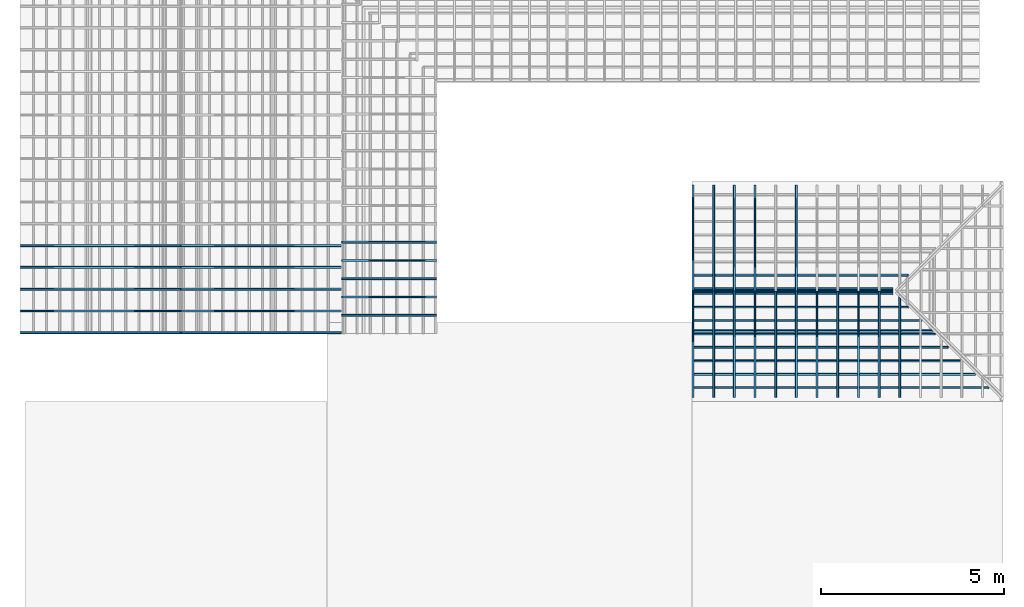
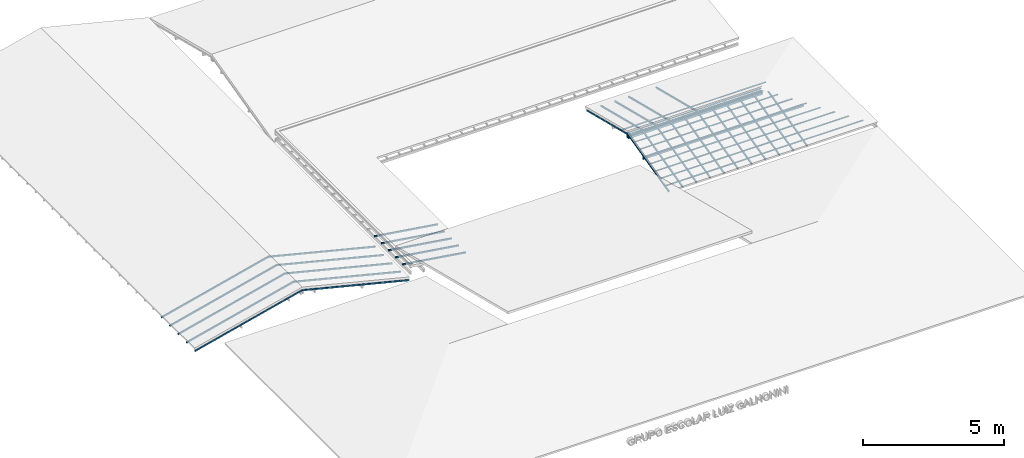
# One storey, part 1 of 10: 44 members, 5 elements without a shape of their own.
"""IFC2X3 building model written with IfcOpenShell, lengths in metres."""

import ifcopenshell
import ifcopenshell.guid

model = None  # the IFC model being written
_history = None  # IfcOwnerHistory: only IFC2X3 demands one
_inside = {}  # id of a spatial element -> (the spatial element, [elements in it])
_under = {}  # id of a project, library or spatial element -> (it, [spatial elements below it])
_declared = {}  # id of a project -> (the project, [libraries it declares])
_typed = {}  # id of a type object -> (the type object, [elements of that type])
_made_of = {}  # id of a material, layer set ... -> (it, [elements and type objects made of it])


def new_model(schema):
    """Start an empty IFC model of exactly this schema.

    Asked for "IFC4X3", IfcOpenShell would pick the latest addendum, in which some entities
    have other attributes; the version numbers below select the first issue.
    IFC2X3 requires an IfcOwnerHistory on every rooted entity: one is made here for all.
    """
    global model, _history
    if schema == "IFC4X3":
        model = ifcopenshell.file(schema_version=(4, 3, 0, 0))
    else:
        model = ifcopenshell.file(schema=schema)
    _inside.clear()
    _under.clear()
    _declared.clear()
    _typed.clear()
    _made_of.clear()
    _history = None
    if model.schema == "IFC2X3":
        org = make("IfcOrganization", Name="unknown")
        user = make(
            "IfcPersonAndOrganization",
            ThePerson=make("IfcPerson", FamilyName="unknown"),
            TheOrganization=org,
        )
        app = make(
            "IfcApplication",
            ApplicationDeveloper=org,
            Version="unknown",
            ApplicationFullName="unknown",
            ApplicationIdentifier="unknown",
        )
        _history = make(
            "IfcOwnerHistory",
            OwningUser=user,
            OwningApplication=app,
            ChangeAction="ADDED",
            CreationDate=0,
        )
    return model


def make(cls, **values):
    """One entity of the class cls with the attributes given. An attribute that is None is left unset."""
    return model.create_entity(
        cls, **{name: value for name, value in values.items() if value is not None}
    )


def entity(cls, *values):
    """Any entity or typed value of the class cls, its attributes in the order of the schema. None: left unset."""
    e = model.create_entity(cls)
    for i, value in enumerate(values):
        if value is not None:
            e[i] = value
    return e


def rooted(cls, **values):
    """An entity with a GlobalId (a new one), such as an element, a storey or a relation."""
    return make(cls, GlobalId=ifcopenshell.guid.new(), OwnerHistory=_history, **values)


def si_unit(unit_type, name, prefix=None):
    """IfcSIUnit, for example si_unit("LENGTHUNIT", "METRE", prefix="MILLI")."""
    return make("IfcSIUnit", UnitType=unit_type, Prefix=prefix, Name=name)


def converted_unit(unit_type, name, factor, base, dimensions=None, offset=None):
    """IfcConversionBasedUnit, such as the inch: factor (a typed value) times the base unit."""
    return make(
        "IfcConversionBasedUnit"
        if offset is None
        else "IfcConversionBasedUnitWithOffset",
        ConversionOffset=offset,
        Dimensions=None
        if dimensions is None
        else entity("IfcDimensionalExponents", *dimensions),
        UnitType=unit_type,
        Name=name,
        ConversionFactor=make(
            "IfcMeasureWithUnit", ValueComponent=factor, UnitComponent=base
        ),
    )


def derived_unit(unit_type, elements):
    """IfcDerivedUnit: a product of units, each with its exponent."""
    return make(
        "IfcDerivedUnit",
        Elements=[
            make("IfcDerivedUnitElement", Unit=unit, Exponent=power)
            for unit, power in elements
        ],
        UnitType=unit_type,
    )


def assignment(units):
    """IfcUnitAssignment: the units of a project."""
    return None if units is None else make("IfcUnitAssignment", Units=units)


def point(xyz):
    """IfcCartesianPoint."""
    return None if xyz is None else make("IfcCartesianPoint", Coordinates=xyz)


def direction(xyz):
    """IfcDirection."""
    return None if xyz is None else make("IfcDirection", DirectionRatios=xyz)


def frame(location, z_axis=None, x_axis=None):
    """IfcAxis2Placement3D, a coordinate frame: its origin and axes. An axis left out is left unset."""
    return make(
        "IfcAxis2Placement3D",
        Location=point(location),
        Axis=direction(z_axis),
        RefDirection=direction(x_axis),
    )


def frame_2d(location, x_axis=None):
    """IfcAxis2Placement2D, a coordinate frame in the plane: its origin and x axis."""
    return make(
        "IfcAxis2Placement2D", Location=point(location), RefDirection=direction(x_axis)
    )


def origin():
    """The frame at (0, 0, 0) with its axes left unset."""
    return frame((0.0, 0.0, 0.0))


def origin_2d_with_axis():
    """The frame at (0, 0) in the plane with the x axis (1, 0) written out."""
    return frame_2d((0.0, 0.0), x_axis=(1.0, 0.0))


def place(relative_to, where):
    """IfcLocalPlacement: puts the frame where relative to a parent placement (None: the world)."""
    return make(
        "IfcLocalPlacement", PlacementRelTo=relative_to, RelativePlacement=where
    )


def context(
    kind, dimensions, precision=None, world=None, true_north=None, identifier=None
):
    """IfcGeometricRepresentationContext, for example the 3D "Model" context."""
    return make(
        "IfcGeometricRepresentationContext",
        ContextIdentifier=identifier,
        ContextType=kind,
        CoordinateSpaceDimension=dimensions,
        Precision=precision,
        WorldCoordinateSystem=world,
        TrueNorth=true_north,
    )


def subcontext(parent, identifier, kind, view, scale=None):
    """IfcGeometricRepresentationSubContext, for example "Body" below "Model"."""
    return make(
        "IfcGeometricRepresentationSubContext",
        ContextIdentifier=identifier,
        ContextType=kind,
        ParentContext=parent,
        TargetScale=scale,
        TargetView=view,
    )


def project(units=None, contexts=None):
    """IfcProject with its units and contexts."""
    return rooted(
        "IfcProject",
        Name="project",
        RepresentationContexts=contexts,
        UnitsInContext=assignment(units),
    )


def spatial(cls, under=None, at=None, **own):
    """A site, building, storey or space (cls), placed at a placement, below another one or the project."""
    s = rooted(cls, ObjectPlacement=at, **own)
    if under is not None:
        _under.setdefault(under.id(), (under, []))[1].append(s)
    return s


def profile(cls, at=None, kind="AREA", **sizes):
    """A parametric profile (cls). Its sizes go by their IFC names, for example OverallWidth=200.0."""
    return make(cls, ProfileType=kind, Position=at, **sizes)


def rectangle(**sizes):
    """IfcRectangleProfileDef."""
    return profile("IfcRectangleProfileDef", **sizes)


def extrude(swept, where, along, depth):
    """IfcExtrudedAreaSolid: the profile swept, set in the frame where, extruded along a direction by depth."""
    return make(
        "IfcExtrudedAreaSolid",
        SweptArea=swept,
        Position=where,
        ExtrudedDirection=direction(along),
        Depth=depth,
    )


def clip(a, b, op="DIFFERENCE"):
    """IfcBooleanClippingResult: the solid a cut by the half space b."""
    return make(
        "IfcBooleanClippingResult", Operator=op, FirstOperand=a, SecondOperand=b
    )


def halfspace(plane, agree):
    """IfcHalfSpaceSolid: all space on one side of the plane z = 0 of the frame plane."""
    return make(
        "IfcHalfSpaceSolid",
        BaseSurface=make("IfcPlane", Position=plane),
        AgreementFlag=agree,
    )


def shape(context_of_items, identifier, shape_type, items):
    """IfcShapeRepresentation: the items that make up one representation, for example the "Body"."""
    return make(
        "IfcShapeRepresentation",
        ContextOfItems=context_of_items,
        RepresentationIdentifier=identifier,
        RepresentationType=shape_type,
        Items=items,
    )


def source(mapping_origin, context_of_items, identifier, shape_type, items):
    """IfcRepresentationMap: a shape defined once, which mapped items show again and again."""
    return make(
        "IfcRepresentationMap",
        MappingOrigin=mapping_origin,
        MappedRepresentation=shape(context_of_items, identifier, shape_type, items),
    )


def transform(
    local_origin,
    x_axis=None,
    y_axis=None,
    z_axis=None,
    scale=None,
    scale2=None,
    scale3=None,
    uniform=True,
):
    """IfcCartesianTransformationOperator3D, or its non-uniform kind. x_axis, y_axis, z_axis: its Axis1, 2, 3."""
    if uniform:
        return make(
            "IfcCartesianTransformationOperator3D",
            Axis1=direction(x_axis),
            Axis2=direction(y_axis),
            LocalOrigin=point(local_origin),
            Scale=scale,
            Axis3=direction(z_axis),
        )
    return make(
        "IfcCartesianTransformationOperator3DnonUniform",
        Axis1=direction(x_axis),
        Axis2=direction(y_axis),
        LocalOrigin=point(local_origin),
        Scale=scale,
        Axis3=direction(z_axis),
        Scale2=scale2,
        Scale3=scale3,
    )


def mapped(mapping_source, mapping_target):
    """IfcMappedItem: shows the shape of a source again, moved by a transform."""
    return make(
        "IfcMappedItem", MappingSource=mapping_source, MappingTarget=mapping_target
    )


def material(Name=None, Category=None):
    """IfcMaterial."""
    return make("IfcMaterial", Name=Name, Category=Category)


def made_of(thing, what):
    """Note that an element or type object is made of a material, layer set ...; save() writes the relation."""
    if what is not None:
        _made_of.setdefault(what.id(), (what, []))[1].append(thing)
    return thing


def type_object(cls, material=None, **own):
    """A type object (cls), such as IfcWallType, which elements share."""
    return made_of(rooted(cls, **own), material)


def type_shapes(of_type, sources):
    """Give a type object the sources (RepresentationMaps) that its elements show as mapped items."""
    of_type.RepresentationMaps = sources


def element(
    cls,
    number,
    at=None,
    inside=None,
    cuts=None,
    type_object=None,
    material=None,
    context=None,
    identifier="Body",
    shape_type=None,
    held_by="IfcProductDefinitionShape",
    body=None,
    shapes=None,
    **own,
):
    """One element of the class cls, such as IfcWall. Its Tag is "e" and its number.

    at: its placement. inside: the storey or other place that contains it. cuts: it is an
    opening in that element (IfcRelVoidsElement). A single representation is given by context,
    identifier, shape_type and body (its items); several are given by shapes. held_by: the class
    of the entity that holds the representations. save() writes the other relations.
    """
    e = rooted(cls, Tag="e%d" % number, ObjectPlacement=at, **own)
    if body is not None:
        shapes = [shape(context, identifier, shape_type, body)]
    if shapes is not None:
        e.Representation = make(held_by, Representations=shapes)
    if inside is not None:
        _inside.setdefault(inside.id(), (inside, []))[1].append(e)
    if cuts is not None:
        rooted(
            "IfcRelVoidsElement", RelatingBuildingElement=cuts, RelatedOpeningElement=e
        )
    if type_object is not None:
        _typed.setdefault(type_object.id(), (type_object, []))[1].append(e)
    return made_of(e, material)


def aggregate(whole, parts):
    """IfcRelAggregates: a whole, such as a stair, and the parts it consists of."""
    return rooted("IfcRelAggregates", RelatingObject=whole, RelatedObjects=parts)


def save(model, path):
    """Write the relations noted so far, then the file.

    IfcRelAggregates (storeys below a building ...), IfcRelContainedInSpatialStructure (elements
    in a storey), IfcRelDefinesByType, IfcRelAssociatesMaterial and IfcRelDeclares: one each for
    every whole, place, type object, material and project.
    """
    for whole, parts in _under.values():
        aggregate(whole, parts)
    for where, things in _inside.values():
        rooted(
            "IfcRelContainedInSpatialStructure",
            RelatedElements=things,
            RelatingStructure=where,
        )
    for kind, things in _typed.values():
        rooted("IfcRelDefinesByType", RelatedObjects=things, RelatingType=kind)
    for what, things in _made_of.values():
        rooted("IfcRelAssociatesMaterial", RelatedObjects=things, RelatingMaterial=what)
    for by, libraries in _declared.values():
        rooted("IfcRelDeclares", RelatingContext=by, RelatedDefinitions=libraries)
    model.write(path)


model = new_model("IFC2X3")

# Units and contexts
model_context = context("Model", 3, precision=1e-05, world=origin(), true_north=direction((6.12303176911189e-17, 1.0)))
body_context = subcontext(model_context, "Body", "Model", "MODEL_VIEW")
ifc_project = project(units=[si_unit("LENGTHUNIT", "METRE"), si_unit("AREAUNIT", "SQUARE_METRE"), si_unit("VOLUMEUNIT", "CUBIC_METRE"), converted_unit("PLANEANGLEUNIT", "DEGREE", entity("IfcRatioMeasure", 0.0174532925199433), si_unit("PLANEANGLEUNIT", "RADIAN"), dimensions=[0, 0, 0, 0, 0, 0, 0]), si_unit("MASSUNIT", "GRAM", prefix="KILO"), derived_unit("MASSDENSITYUNIT", [(si_unit("MASSUNIT", "GRAM", prefix="KILO"), 1), (si_unit("LENGTHUNIT", "METRE"), -3)]), si_unit("TIMEUNIT", "SECOND"), si_unit("FREQUENCYUNIT", "HERTZ"), si_unit("THERMODYNAMICTEMPERATUREUNIT", "DEGREE_CELSIUS"), derived_unit("THERMALTRANSMITTANCEUNIT", [(si_unit("MASSUNIT", "GRAM", prefix="KILO"), 1), (si_unit("THERMODYNAMICTEMPERATUREUNIT", "KELVIN"), -1), (si_unit("TIMEUNIT", "SECOND"), -3)]), derived_unit("VOLUMETRICFLOWRATEUNIT", [(si_unit("LENGTHUNIT", "METRE"), 3), (si_unit("TIMEUNIT", "SECOND"), -1)]), si_unit("ELECTRICCURRENTUNIT", "AMPERE"), si_unit("ELECTRICVOLTAGEUNIT", "VOLT"), si_unit("POWERUNIT", "WATT"), si_unit("FORCEUNIT", "NEWTON", prefix="KILO"), si_unit("ILLUMINANCEUNIT", "LUX"), si_unit("LUMINOUSFLUXUNIT", "LUMEN"), si_unit("LUMINOUSINTENSITYUNIT", "CANDELA"), derived_unit("USERDEFINED", [(si_unit("MASSUNIT", "GRAM", prefix="KILO"), -1), (si_unit("LENGTHUNIT", "METRE"), -2), (si_unit("TIMEUNIT", "SECOND"), 3), (si_unit("LUMINOUSFLUXUNIT", "LUMEN"), 1)]), derived_unit("LINEARVELOCITYUNIT", [(si_unit("LENGTHUNIT", "METRE"), 1), (si_unit("TIMEUNIT", "SECOND"), -1)]), si_unit("PRESSUREUNIT", "PASCAL"), derived_unit("USERDEFINED", [(si_unit("LENGTHUNIT", "METRE"), -2), (si_unit("MASSUNIT", "GRAM", prefix="KILO"), 1), (si_unit("TIMEUNIT", "SECOND"), -2)])], contexts=[model_context])

# Site, building, storey
site_placement = place(None, frame((26.9889013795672, -17.5624287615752, 0.0)))
site = spatial("IfcSite", under=ifc_project, at=site_placement, Name="Default", CompositionType="ELEMENT")
building_placement = place(site_placement, origin())
building = spatial("IfcBuilding", under=site, at=building_placement, Name="C. C. L. Monsenhor Antônio Sampaio", CompositionType="ELEMENT")
storey_placement = place(building_placement, frame((0.0, 0.0, 4.3)))
storey = spatial("IfcBuildingStorey", under=building, at=storey_placement, Name="COBERTURA BLOCO 01", CompositionType="ELEMENT", Elevation=4.3)

# Roof, members
curtain_wall_type_1 = type_object("IfcCurtainWallType", PredefinedType="NOTDEFINED")
roof_1_placement = place(storey_placement, frame((0.0, 0.0, -4.3)))
roof_1 = element("IfcRoof", 1, at=roof_1_placement, inside=storey, type_object=curtain_wall_type_1, ShapeType="NOTDEFINED")
ifc_material = material(Name=".Madeira")
member_type_1 = type_object("IfcMemberType", Name="Terça", PredefinedType="MEMBER")
shared_shape_1 = source(origin(), body_context, "Body", "SweptSolid", [
    extrude(rectangle(XDim=0.12, YDim=0.0599999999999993, at=origin_2d_with_axis()), frame((-0.0299999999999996, -0.06, -5.49007053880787), z_axis=(0.0, 0.0, 1.0), x_axis=(0.0, -1.0, 0.0)), (0.0, 0.0, 1.0), 5.49007053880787),
])
type_shapes(member_type_1, [shared_shape_1])
member_1_placement = place(storey_placement, frame((9.21944770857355, -25.293066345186, 2.2525), z_axis=(1.0, 0.0, 0.0), x_axis=(0.0, -0.970142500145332, 0.242535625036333)))
member_1 = element("IfcMember", 2, at=member_1_placement, type_object=member_type_1, material=ifc_material, Name="Rectangular Mullion:Terça", ObjectType="Terça", context=body_context, shape_type="MappedRepresentation", body=[
    mapped(shared_shape_1, transform((0.0, 0.0, 0.0), scale=1.0)),
])
member_2_placement = place(storey_placement, frame((3.72937716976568, -25.293066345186, 2.2525), z_axis=(-1.0, 0.0, 0.0), x_axis=(0.0, 0.970142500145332, 0.242535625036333)))
member_2 = element("IfcMember", 3, at=member_2_placement, type_object=member_type_1, material=ifc_material, Name="Rectangular Mullion:Terça", ObjectType="Terça", context=body_context, shape_type="MappedRepresentation", body=[
    mapped(shared_shape_1, transform((0.0, 0.0, 0.0), scale=1.0)),
])
member_type_2 = type_object("IfcMemberType", Name="Terça", PredefinedType="MEMBER")
shared_shape_2 = source(origin(), body_context, "Body", "SweptSolid", [
    extrude(rectangle(XDim=0.12, YDim=0.0599999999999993, at=origin_2d_with_axis()), frame((0.0, -0.06, -6.56463625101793), z_axis=(0.0, 0.0, 1.0), x_axis=(0.0, -1.0, 0.0)), (0.0, 0.0, 1.0), 6.56463625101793),
])
type_shapes(member_type_2, [shared_shape_2])
member_3_placement = place(storey_placement, frame((3.72937716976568, -26.3676320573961, 1.98385857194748), z_axis=(-1.0, 0.0, 0.0), x_axis=(0.0, 0.970142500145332, 0.242535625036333)))
member_3 = element("IfcMember", 4, at=member_3_placement, type_object=member_type_2, material=ifc_material, Name="Rectangular Mullion:Terça", ObjectType="Terça", context=body_context, shape_type="MappedRepresentation", body=[
    mapped(shared_shape_2, transform((0.0, 0.0, 0.0), scale=1.0)),
])
aggregate(roof_1, [member_1, member_2, member_3])

curtain_wall_type_2 = type_object("IfcCurtainWallType", PredefinedType="NOTDEFINED")
roof_2_placement = place(storey_placement, frame((0.0, 0.0, -4.3)))
roof_2 = element("IfcRoof", 5, at=roof_2_placement, inside=storey, type_object=curtain_wall_type_2, ShapeType="NOTDEFINED")
member_type_3 = type_object("IfcMemberType", Name="Caibro", PredefinedType="MEMBER")
shared_shape_3 = source(origin(), body_context, "Body", "Clipping", [
    clip(extrude(rectangle(XDim=0.06, YDim=0.0499999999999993, at=origin_2d_with_axis()), frame((0.0, -0.03, -4.50666618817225), z_axis=(0.0, 0.0, 1.0), x_axis=(0.0, -1.0, 0.0)), (0.0, 0.0, 1.0), 4.52166618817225), halfspace(frame((-0.3048, 0.0, 0.0), z_axis=(0.0, 0.242535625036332, 0.970142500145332), x_axis=(0.0, 0.970142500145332, -0.242535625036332)), False)),
])
type_shapes(member_type_3, [shared_shape_3])
member_4_placement = place(storey_placement, frame((-10.2441903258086, -25.8330284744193, 1.22274577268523), z_axis=(-0.970142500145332, 0.0, 0.242535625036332), x_axis=(0.0, 1.0, 0.0)))
member_4 = element("IfcMember", 6, at=member_4_placement, type_object=member_type_3, material=ifc_material, Name="Rectangular Mullion:Caibro", ObjectType="Caibro", context=body_context, shape_type="MappedRepresentation", body=[
    mapped(shared_shape_3, transform((0.0, 0.0, 0.0), scale=1.0)),
])
member_5_placement = place(storey_placement, frame((-10.2441903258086, -25.2379906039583, 1.22274577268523), z_axis=(-0.970142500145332, 0.0, 0.242535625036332), x_axis=(0.0, 1.0, 0.0)))
member_5 = element("IfcMember", 7, at=member_5_placement, type_object=member_type_3, material=ifc_material, Name="Rectangular Mullion:Caibro", ObjectType="Caibro", context=body_context, shape_type="MappedRepresentation", body=[
    mapped(shared_shape_3, transform((0.0, 0.0, 0.0), scale=1.0)),
])
member_6_placement = place(storey_placement, frame((-10.2441903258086, -24.6429527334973, 1.22274577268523), z_axis=(-0.970142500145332, 0.0, 0.242535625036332), x_axis=(0.0, 1.0, 0.0)))
member_6 = element("IfcMember", 8, at=member_6_placement, type_object=member_type_3, material=ifc_material, Name="Rectangular Mullion:Caibro", ObjectType="Caibro", context=body_context, shape_type="MappedRepresentation", body=[
    mapped(shared_shape_3, transform((0.0, 0.0, 0.0), scale=1.0)),
])
member_7_placement = place(storey_placement, frame((-10.2441903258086, -24.0479148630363, 1.22274577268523), z_axis=(-0.970142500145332, 0.0, 0.242535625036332), x_axis=(0.0, 1.0, 0.0)))
member_7 = element("IfcMember", 9, at=member_7_placement, type_object=member_type_3, material=ifc_material, Name="Rectangular Mullion:Caibro", ObjectType="Caibro", context=body_context, shape_type="MappedRepresentation", body=[
    mapped(shared_shape_3, transform((0.0, 0.0, 0.0), scale=1.0)),
])
member_8_placement = place(storey_placement, frame((-10.2441903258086, -24.0479148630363, 1.22274577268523), z_axis=(0.970142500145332, 0.0, 0.242535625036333), x_axis=(0.0, -1.0, 0.0)))
member_8 = element("IfcMember", 10, at=member_8_placement, type_object=member_type_3, material=ifc_material, Name="Rectangular Mullion:Caibro", ObjectType="Caibro", context=body_context, shape_type="MappedRepresentation", body=[
    mapped(shared_shape_3, transform((0.0, 0.0, 0.0), scale=1.0)),
])
member_9_placement = place(storey_placement, frame((-10.2441903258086, -24.6429527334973, 1.22274577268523), z_axis=(0.970142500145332, 0.0, 0.242535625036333), x_axis=(0.0, -1.0, 0.0)))
member_9 = element("IfcMember", 11, at=member_9_placement, type_object=member_type_3, material=ifc_material, Name="Rectangular Mullion:Caibro", ObjectType="Caibro", context=body_context, shape_type="MappedRepresentation", body=[
    mapped(shared_shape_3, transform((0.0, 0.0, 0.0), scale=1.0)),
])
member_10_placement = place(storey_placement, frame((-10.2441903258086, -25.2379906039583, 1.22274577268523), z_axis=(0.970142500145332, 0.0, 0.242535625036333), x_axis=(0.0, -1.0, 0.0)))
member_10 = element("IfcMember", 12, at=member_10_placement, type_object=member_type_3, material=ifc_material, Name="Rectangular Mullion:Caibro", ObjectType="Caibro", context=body_context, shape_type="MappedRepresentation", body=[
    mapped(shared_shape_3, transform((0.0, 0.0, 0.0), scale=1.0)),
])
member_11_placement = place(storey_placement, frame((-10.2441903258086, -25.8330284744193, 1.22274577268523), z_axis=(0.970142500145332, 0.0, 0.242535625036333), x_axis=(0.0, -1.0, 0.0)))
member_11 = element("IfcMember", 13, at=member_11_placement, type_object=member_type_3, material=ifc_material, Name="Rectangular Mullion:Caibro", ObjectType="Caibro", context=body_context, shape_type="MappedRepresentation", body=[
    mapped(shared_shape_3, transform((0.0, 0.0, 0.0), scale=1.0)),
])
member_type_4 = type_object("IfcMemberType", Name="Caibro", PredefinedType="MEMBER")
shared_shape_4 = source(origin(), body_context, "Body", "SweptSolid", [
    extrude(rectangle(XDim=0.06, YDim=0.0499999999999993, at=origin_2d_with_axis()), frame((-0.0249999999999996, -0.03, -4.50666618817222), z_axis=(0.0, 0.0, 1.0), x_axis=(0.0, -1.0, 0.0)), (0.0, 0.0, 1.0), 4.50666618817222),
])
type_shapes(member_type_4, [shared_shape_4])
member_12_placement = place(storey_placement, frame((-5.87208192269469, -26.4530663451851, 0.129718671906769), z_axis=(0.970142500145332, 0.0, -0.242535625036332), x_axis=(0.0, -1.0, 0.0)))
member_12 = element("IfcMember", 14, at=member_12_placement, type_object=member_type_4, material=ifc_material, Name="Rectangular Mullion:Caibro", ObjectType="Caibro", context=body_context, shape_type="MappedRepresentation", body=[
    mapped(shared_shape_4, transform((0.0, 0.0, 0.0), scale=1.0)),
])
member_type_5 = type_object("IfcMemberType", Name="Caibro", PredefinedType="MEMBER")
shared_shape_5 = source(origin(), body_context, "Body", "SweptSolid", [
    extrude(rectangle(XDim=0.06, YDim=0.0499999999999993, at=origin_2d_with_axis()), frame((-0.0249999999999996, -0.03, -4.50666618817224), z_axis=(0.0, 0.0, 1.0), x_axis=(0.0, -1.0, 0.0)), (0.0, 0.0, 1.0), 4.50666618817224),
])
type_shapes(member_type_5, [shared_shape_5])
member_13_placement = place(storey_placement, frame((-10.2441903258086, -26.4530663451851, 1.22274577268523), z_axis=(0.970142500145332, 0.0, 0.242535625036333), x_axis=(0.0, -1.0, 0.0)))
member_13 = element("IfcMember", 15, at=member_13_placement, type_object=member_type_5, material=ifc_material, Name="Rectangular Mullion:Caibro", ObjectType="Caibro", context=body_context, shape_type="MappedRepresentation", body=[
    mapped(shared_shape_5, transform((0.0, 0.0, 0.0), scale=1.0)),
])
aggregate(roof_2, [member_4, member_5, member_6, member_7, member_12, member_8, member_9, member_10, member_11, member_13])

curtain_wall_type_3 = type_object("IfcCurtainWallType", PredefinedType="NOTDEFINED")
roof_3_placement = place(storey_placement, frame((0.0, 0.0, -4.3)))
roof_3 = element("IfcRoof", 16, at=roof_3_placement, inside=storey, type_object=curtain_wall_type_3, ShapeType="NOTDEFINED")
member_type_6 = type_object("IfcMemberType", Name="6x5 cm", PredefinedType="MEMBER")
shared_shape_6 = source(origin(), body_context, "Body", "SweptSolid", [
    extrude(rectangle(XDim=0.06, YDim=0.05, at=origin_2d_with_axis()), frame((0.0, 0.05, -2.61408729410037), z_axis=(0.0, 0.0, 1.0), x_axis=(0.0, -1.0, 0.0)), (0.0, 0.0, 1.0), 2.61408729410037),
])
type_shapes(member_type_6, [shared_shape_6])
member_14_placement = place(storey_placement, frame((-5.84055229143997, -25.9530663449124, 0.592237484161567), z_axis=(-0.988936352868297, 0.0, 0.148340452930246), x_axis=(0.0, 1.0, 0.0)))
member_14 = element("IfcMember", 17, at=member_14_placement, type_object=member_type_6, material=ifc_material, Name="Rectangular Mullion:6x5 cm", ObjectType="6x5 cm", context=body_context, shape_type="MappedRepresentation", body=[
    mapped(shared_shape_6, transform((0.0, 0.0, 0.0), scale=1.0)),
])
member_15_placement = place(storey_placement, frame((-5.84055229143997, -25.4530663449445, 0.592237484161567), z_axis=(-0.988936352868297, 0.0, 0.148340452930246), x_axis=(0.0, 1.0, 0.0)))
member_15 = element("IfcMember", 18, at=member_15_placement, type_object=member_type_6, material=ifc_material, Name="Rectangular Mullion:6x5 cm", ObjectType="6x5 cm", context=body_context, shape_type="MappedRepresentation", body=[
    mapped(shared_shape_6, transform((0.0, 0.0, 0.0), scale=1.0)),
])
member_16_placement = place(storey_placement, frame((-5.84055229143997, -24.9530663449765, 0.592237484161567), z_axis=(-0.988936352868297, 0.0, 0.148340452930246), x_axis=(0.0, 1.0, 0.0)))
member_16 = element("IfcMember", 19, at=member_16_placement, type_object=member_type_6, material=ifc_material, Name="Rectangular Mullion:6x5 cm", ObjectType="6x5 cm", context=body_context, shape_type="MappedRepresentation", body=[
    mapped(shared_shape_6, transform((0.0, 0.0, 0.0), scale=1.0)),
])
member_17_placement = place(storey_placement, frame((-5.84055229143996, -24.4530663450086, 0.592237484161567), z_axis=(-0.988936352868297, 0.0, 0.148340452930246), x_axis=(0.0, 1.0, 0.0)))
member_17 = element("IfcMember", 20, at=member_17_placement, type_object=member_type_6, material=ifc_material, Name="Rectangular Mullion:6x5 cm", ObjectType="6x5 cm", context=body_context, shape_type="MappedRepresentation", body=[
    mapped(shared_shape_6, transform((0.0, 0.0, 0.0), scale=1.0)),
])
member_18_placement = place(storey_placement, frame((-5.84055229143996, -23.9530663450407, 0.592237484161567), z_axis=(-0.988936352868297, 0.0, 0.148340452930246), x_axis=(0.0, 1.0, 0.0)))
member_18 = element("IfcMember", 21, at=member_18_placement, type_object=member_type_6, material=ifc_material, Name="Rectangular Mullion:6x5 cm", ObjectType="6x5 cm", context=body_context, shape_type="MappedRepresentation", body=[
    mapped(shared_shape_6, transform((0.0, 0.0, 0.0), scale=1.0)),
])
aggregate(roof_3, [member_14, member_15, member_16, member_17, member_18])

curtain_wall_type_4 = type_object("IfcCurtainWallType", PredefinedType="NOTDEFINED")
roof_4_placement = place(storey_placement, frame((0.0, 0.0, -4.3)))
roof_4 = element("IfcRoof", 22, at=roof_4_placement, inside=storey, type_object=curtain_wall_type_4, ShapeType="NOTDEFINED")
member_type_7 = type_object("IfcMemberType", Name="Ripa", PredefinedType="MEMBER")
shared_shape_7 = source(origin(), body_context, "Body", "SweptSolid", [
    extrude(rectangle(XDim=0.015, YDim=0.05, at=frame_2d((-1.69135538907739e-17, 0.0), x_axis=(1.0, 0.0))), frame((-0.025, -0.1875, -5.49007053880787), z_axis=(0.0, 0.0, 1.0), x_axis=(0.0, -1.0, 0.0)), (0.0, 0.0, 1.0), 5.49007053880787),
])
type_shapes(member_type_7, [shared_shape_7])
member_19_placement = place(storey_placement, frame((3.72937716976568, -25.293066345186, 2.25057764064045), z_axis=(-1.0, 0.0, 0.0), x_axis=(0.0, 0.970142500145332, 0.242535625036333)))
member_19 = element("IfcMember", 23, at=member_19_placement, type_object=member_type_7, material=ifc_material, Name="Rectangular Mullion:Ripa", ObjectType="Ripa", context=body_context, shape_type="MappedRepresentation", body=[
    mapped(shared_shape_7, transform((0.0, 0.0, 0.0), scale=1.0)),
])
member_20_placement = place(storey_placement, frame((9.21944770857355, -25.293066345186, 2.25057764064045), z_axis=(1.0, 0.0, 0.0), x_axis=(0.0, -0.970142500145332, 0.242535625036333)))
member_20 = element("IfcMember", 24, at=member_20_placement, type_object=member_type_7, material=ifc_material, Name="Rectangular Mullion:Ripa", ObjectType="Ripa", context=body_context, shape_type="MappedRepresentation", body=[
    mapped(shared_shape_7, transform((0.0, 0.0, 0.0), scale=1.0)),
])
member_type_8 = type_object("IfcMemberType", Name="Ripa", PredefinedType="MEMBER")
shared_shape_8 = source(origin(), body_context, "Body", "SweptSolid", [
    extrude(rectangle(XDim=0.015, YDim=0.05, at=frame_2d((-1.69135538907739e-17, 0.0), x_axis=(1.0, 0.0))), frame((0.025, -0.1875, -8.1086620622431), z_axis=(0.0, 0.0, 1.0), x_axis=(0.0, -1.0, 0.0)), (0.0, 0.0, 1.0), 8.1086620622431),
])
type_shapes(member_type_8, [shared_shape_8])
member_21_placement = place(storey_placement, frame((3.72937716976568, -27.9116578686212, 1.59592975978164), z_axis=(-1.0, 0.0, 0.0), x_axis=(0.0, 0.970142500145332, 0.242535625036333)))
member_21 = element("IfcMember", 25, at=member_21_placement, type_object=member_type_8, material=ifc_material, Name="Rectangular Mullion:Ripa", ObjectType="Ripa", context=body_context, shape_type="MappedRepresentation", body=[
    mapped(shared_shape_8, transform((0.0, 0.0, 0.0), scale=1.0)),
])
member_type_9 = type_object("IfcMemberType", Name="Ripa", PredefinedType="MEMBER")
shared_shape_9 = source(origin(), body_context, "Body", "SweptSolid", [
    extrude(rectangle(XDim=0.015, YDim=0.05, at=frame_2d((-1.69135538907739e-17, 0.0), x_axis=(1.0, 0.0))), frame((0.025, -0.1875, -7.74150714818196), z_axis=(0.0, 0.0, 1.0), x_axis=(0.0, -1.0, 0.0)), (0.0, 0.0, 1.0), 7.74150714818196),
])
type_shapes(member_type_9, [shared_shape_9])
member_22_placement = place(storey_placement, frame((3.72937716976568, -27.5445029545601, 1.68771848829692), z_axis=(-1.0, 0.0, 0.0), x_axis=(0.0, 0.970142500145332, 0.242535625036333)))
member_22 = element("IfcMember", 26, at=member_22_placement, type_object=member_type_9, material=ifc_material, Name="Rectangular Mullion:Ripa", ObjectType="Ripa", context=body_context, shape_type="MappedRepresentation", body=[
    mapped(shared_shape_9, transform((0.0, 0.0, 0.0), scale=1.0)),
])
member_type_10 = type_object("IfcMemberType", Name="Ripa", PredefinedType="MEMBER")
shared_shape_10 = source(origin(), body_context, "Body", "SweptSolid", [
    extrude(rectangle(XDim=0.015, YDim=0.05, at=frame_2d((-1.69135538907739e-17, 0.0), x_axis=(1.0, 0.0))), frame((0.025, -0.1875, -7.37435223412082), z_axis=(0.0, 0.0, 1.0), x_axis=(0.0, -1.0, 0.0)), (0.0, 0.0, 1.0), 7.37435223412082),
])
type_shapes(member_type_10, [shared_shape_10])
member_23_placement = place(storey_placement, frame((3.72937716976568, -27.1773480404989, 1.77950721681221), z_axis=(-1.0, 0.0, 0.0), x_axis=(0.0, 0.970142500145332, 0.242535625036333)))
member_23 = element("IfcMember", 27, at=member_23_placement, type_object=member_type_10, material=ifc_material, Name="Rectangular Mullion:Ripa", ObjectType="Ripa", context=body_context, shape_type="MappedRepresentation", body=[
    mapped(shared_shape_10, transform((0.0, 0.0, 0.0), scale=1.0)),
])
member_type_11 = type_object("IfcMemberType", Name="Ripa", PredefinedType="MEMBER")
shared_shape_11 = source(origin(), body_context, "Body", "SweptSolid", [
    extrude(rectangle(XDim=0.015, YDim=0.05, at=frame_2d((-1.69135538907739e-17, 0.0), x_axis=(1.0, 0.0))), frame((0.025, -0.1875, -7.00719732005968), z_axis=(0.0, 0.0, 1.0), x_axis=(0.0, -1.0, 0.0)), (0.0, 0.0, 1.0), 7.00719732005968),
])
type_shapes(member_type_11, [shared_shape_11])
member_24_placement = place(storey_placement, frame((3.72937716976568, -26.8101931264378, 1.87129594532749), z_axis=(-1.0, 0.0, 0.0), x_axis=(0.0, 0.970142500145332, 0.242535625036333)))
member_24 = element("IfcMember", 28, at=member_24_placement, type_object=member_type_11, material=ifc_material, Name="Rectangular Mullion:Ripa", ObjectType="Ripa", context=body_context, shape_type="MappedRepresentation", body=[
    mapped(shared_shape_11, transform((0.0, 0.0, 0.0), scale=1.0)),
])
member_type_12 = type_object("IfcMemberType", Name="Ripa", PredefinedType="MEMBER")
shared_shape_12 = source(origin(), body_context, "Body", "SweptSolid", [
    extrude(rectangle(XDim=0.015, YDim=0.05, at=frame_2d((-1.69135538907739e-17, 0.0), x_axis=(1.0, 0.0))), frame((0.025, -0.1875, -6.64004240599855), z_axis=(0.0, 0.0, 1.0), x_axis=(0.0, -1.0, 0.0)), (0.0, 0.0, 1.0), 6.64004240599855),
])
type_shapes(member_type_12, [shared_shape_12])
member_25_placement = place(storey_placement, frame((3.72937716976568, -26.4430382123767, 1.96308467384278), z_axis=(-1.0, 0.0, 0.0), x_axis=(0.0, 0.970142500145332, 0.242535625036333)))
member_25 = element("IfcMember", 29, at=member_25_placement, type_object=member_type_12, material=ifc_material, Name="Rectangular Mullion:Ripa", ObjectType="Ripa", context=body_context, shape_type="MappedRepresentation", body=[
    mapped(shared_shape_12, transform((0.0, 0.0, 0.0), scale=1.0)),
])
member_type_13 = type_object("IfcMemberType", Name="Ripa", PredefinedType="MEMBER")
shared_shape_13 = source(origin(), body_context, "Body", "SweptSolid", [
    extrude(rectangle(XDim=0.015, YDim=0.05, at=frame_2d((-1.69135538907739e-17, 0.0), x_axis=(1.0, 0.0))), frame((0.025, -0.1875, -6.27288749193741), z_axis=(0.0, 0.0, 1.0), x_axis=(0.0, -1.0, 0.0)), (0.0, 0.0, 1.0), 6.27288749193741),
])
type_shapes(member_type_13, [shared_shape_13])
member_26_placement = place(storey_placement, frame((3.72937716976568, -26.0758832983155, 2.05487340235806), z_axis=(-1.0, 0.0, 0.0), x_axis=(0.0, 0.970142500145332, 0.242535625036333)))
member_26 = element("IfcMember", 30, at=member_26_placement, type_object=member_type_13, material=ifc_material, Name="Rectangular Mullion:Ripa", ObjectType="Ripa", context=body_context, shape_type="MappedRepresentation", body=[
    mapped(shared_shape_13, transform((0.0, 0.0, 0.0), scale=1.0)),
])
member_type_14 = type_object("IfcMemberType", Name="Ripa", PredefinedType="MEMBER")
shared_shape_14 = source(origin(), body_context, "Body", "SweptSolid", [
    extrude(rectangle(XDim=0.015, YDim=0.05, at=frame_2d((-1.69135538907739e-17, 0.0), x_axis=(1.0, 0.0))), frame((0.025, -0.1875, -5.90573257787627), z_axis=(0.0, 0.0, 1.0), x_axis=(0.0, -1.0, 0.0)), (0.0, 0.0, 1.0), 5.90573257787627),
])
type_shapes(member_type_14, [shared_shape_14])
member_27_placement = place(storey_placement, frame((3.72937716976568, -25.7087283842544, 2.14666213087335), z_axis=(-1.0, 0.0, 0.0), x_axis=(0.0, 0.970142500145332, 0.242535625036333)))
member_27 = element("IfcMember", 31, at=member_27_placement, type_object=member_type_14, material=ifc_material, Name="Rectangular Mullion:Ripa", ObjectType="Ripa", context=body_context, shape_type="MappedRepresentation", body=[
    mapped(shared_shape_14, transform((0.0, 0.0, 0.0), scale=1.0)),
])
member_28_placement = place(storey_placement, frame((9.63510974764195, -24.8774043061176, 2.14666213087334), z_axis=(1.0, 0.0, 0.0), x_axis=(0.0, -0.970142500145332, 0.242535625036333)))
member_28 = element("IfcMember", 32, at=member_28_placement, type_object=member_type_14, material=ifc_material, Name="Rectangular Mullion:Ripa", ObjectType="Ripa", context=body_context, shape_type="MappedRepresentation", body=[
    mapped(shared_shape_14, transform((0.0, 0.0, 0.0), scale=1.0)),
])
aggregate(roof_4, [member_19, member_21, member_22, member_23, member_24, member_25, member_26, member_27, member_20, member_28])

roof_5_placement = place(storey_placement, frame((0.0, 0.0, -4.3)))
roof_5 = element("IfcRoof", 33, at=roof_5_placement, inside=storey, type_object=curtain_wall_type_2, ShapeType="NOTDEFINED")
member_type_15 = type_object("IfcMemberType", Name="Caibro", PredefinedType="MEMBER")
shared_shape_15 = source(origin(), body_context, "Body", "SweptSolid", [
    extrude(rectangle(XDim=0.06, YDim=0.0499999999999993, at=origin_2d_with_axis()), frame((-0.0249999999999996, -0.03, -2.97455934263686), z_axis=(0.0, 0.0, 1.0), x_axis=(0.0, -1.0, 0.0)), (0.0, 0.0, 1.0), 2.97455934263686),
])
type_shapes(member_type_15, [shared_shape_15])
member_29_placement = place(storey_placement, frame((3.72937716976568, -28.1788127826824, 1.65221867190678), z_axis=(0.0, -0.970142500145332, -0.242535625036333), x_axis=(-1.0, 0.0, 0.0)))
member_29 = element("IfcMember", 34, at=member_29_placement, type_object=member_type_15, material=ifc_material, Name="Rectangular Mullion:Caibro", ObjectType="Caibro", context=body_context, shape_type="MappedRepresentation", body=[
    mapped(shared_shape_15, transform((0.0, 0.0, 0.0), scale=1.0)),
])
member_type_16 = type_object("IfcMemberType", Name="Caibro", PredefinedType="MEMBER")
shared_shape_16 = source(origin(), body_context, "Body", "Clipping", [
    clip(extrude(rectangle(XDim=0.06, YDim=0.0499999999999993, at=origin_2d_with_axis()), frame((0.0, -0.03, -2.97455934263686), z_axis=(0.0, 0.0, 1.0), x_axis=(0.0, -1.0, 0.0)), (0.0, 0.0, 1.0), 2.98955934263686), halfspace(frame((-0.3048, 0.0, 0.0), z_axis=(0.0, 0.242535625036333, 0.970142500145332), x_axis=(0.0, 0.970142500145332, -0.242535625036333)), False)),
])
type_shapes(member_type_16, [shared_shape_16])
member_30_placement = place(storey_placement, frame((4.31943163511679, -25.293066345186, 2.37365528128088), z_axis=(0.0, 0.970142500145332, 0.242535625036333), x_axis=(1.0, 0.0, 0.0)))
member_30 = element("IfcMember", 35, at=member_30_placement, type_object=member_type_16, material=ifc_material, Name="Rectangular Mullion:Caibro", ObjectType="Caibro", context=body_context, shape_type="MappedRepresentation", body=[
    mapped(shared_shape_16, transform((0.0, 0.0, 0.0), scale=1.0)),
])
member_31_placement = place(storey_placement, frame((4.8844861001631, -25.293066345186, 2.37365528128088), z_axis=(0.0, 0.970142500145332, 0.242535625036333), x_axis=(1.0, 0.0, 0.0)))
member_31 = element("IfcMember", 36, at=member_31_placement, type_object=member_type_16, material=ifc_material, Name="Rectangular Mullion:Caibro", ObjectType="Caibro", context=body_context, shape_type="MappedRepresentation", body=[
    mapped(shared_shape_16, transform((0.0, 0.0, 0.0), scale=1.0)),
])
member_32_placement = place(storey_placement, frame((5.44954056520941, -25.293066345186, 2.37365528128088), z_axis=(0.0, 0.970142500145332, 0.242535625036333), x_axis=(1.0, 0.0, 0.0)))
member_32 = element("IfcMember", 37, at=member_32_placement, type_object=member_type_16, material=ifc_material, Name="Rectangular Mullion:Caibro", ObjectType="Caibro", context=body_context, shape_type="MappedRepresentation", body=[
    mapped(shared_shape_16, transform((0.0, 0.0, 0.0), scale=1.0)),
])
member_33_placement = place(storey_placement, frame((6.01459503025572, -25.293066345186, 2.37365528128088), z_axis=(0.0, 0.970142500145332, 0.242535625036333), x_axis=(1.0, 0.0, 0.0)))
member_33 = element("IfcMember", 38, at=member_33_placement, type_object=member_type_16, material=ifc_material, Name="Rectangular Mullion:Caibro", ObjectType="Caibro", context=body_context, shape_type="MappedRepresentation", body=[
    mapped(shared_shape_16, transform((0.0, 0.0, 0.0), scale=1.0)),
])
member_34_placement = place(storey_placement, frame((6.57964949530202, -25.293066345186, 2.37365528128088), z_axis=(0.0, 0.970142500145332, 0.242535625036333), x_axis=(1.0, 0.0, 0.0)))
member_34 = element("IfcMember", 39, at=member_34_placement, type_object=member_type_16, material=ifc_material, Name="Rectangular Mullion:Caibro", ObjectType="Caibro", context=body_context, shape_type="MappedRepresentation", body=[
    mapped(shared_shape_16, transform((0.0, 0.0, 0.0), scale=1.0)),
])
member_35_placement = place(storey_placement, frame((7.14470396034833, -25.293066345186, 2.37365528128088), z_axis=(0.0, 0.970142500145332, 0.242535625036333), x_axis=(1.0, 0.0, 0.0)))
member_35 = element("IfcMember", 40, at=member_35_placement, type_object=member_type_16, material=ifc_material, Name="Rectangular Mullion:Caibro", ObjectType="Caibro", context=body_context, shape_type="MappedRepresentation", body=[
    mapped(shared_shape_16, transform((0.0, 0.0, 0.0), scale=1.0)),
])
member_36_placement = place(storey_placement, frame((7.70975842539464, -25.293066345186, 2.37365528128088), z_axis=(0.0, 0.970142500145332, 0.242535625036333), x_axis=(1.0, 0.0, 0.0)))
member_36 = element("IfcMember", 41, at=member_36_placement, type_object=member_type_16, material=ifc_material, Name="Rectangular Mullion:Caibro", ObjectType="Caibro", context=body_context, shape_type="MappedRepresentation", body=[
    mapped(shared_shape_16, transform((0.0, 0.0, 0.0), scale=1.0)),
])
member_37_placement = place(storey_placement, frame((8.27481289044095, -25.293066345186, 2.37365528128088), z_axis=(0.0, 0.970142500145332, 0.242535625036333), x_axis=(1.0, 0.0, 0.0)))
member_37 = element("IfcMember", 42, at=member_37_placement, type_object=member_type_16, material=ifc_material, Name="Rectangular Mullion:Caibro", ObjectType="Caibro", context=body_context, shape_type="MappedRepresentation", body=[
    mapped(shared_shape_16, transform((0.0, 0.0, 0.0), scale=1.0)),
])
member_38_placement = place(storey_placement, frame((8.83986735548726, -25.293066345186, 2.37365528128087), z_axis=(0.0, 0.970142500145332, 0.242535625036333), x_axis=(1.0, 0.0, 0.0)))
member_38 = element("IfcMember", 43, at=member_38_placement, type_object=member_type_16, material=ifc_material, Name="Rectangular Mullion:Caibro", ObjectType="Caibro", context=body_context, shape_type="MappedRepresentation", body=[
    mapped(shared_shape_16, transform((0.0, 0.0, 0.0), scale=1.0)),
])
member_39_placement = place(storey_placement, frame((6.57964949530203, -25.293066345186, 2.37365528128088), z_axis=(0.0, -0.970142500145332, 0.242535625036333), x_axis=(-1.0, 0.0, 0.0)))
member_39 = element("IfcMember", 44, at=member_39_placement, type_object=member_type_16, material=ifc_material, Name="Rectangular Mullion:Caibro", ObjectType="Caibro", context=body_context, shape_type="MappedRepresentation", body=[
    mapped(shared_shape_16, transform((0.0, 0.0, 0.0), scale=1.0)),
])
member_40_placement = place(storey_placement, frame((5.44954056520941, -25.293066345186, 2.37365528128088), z_axis=(0.0, -0.970142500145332, 0.242535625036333), x_axis=(-1.0, 0.0, 0.0)))
member_40 = element("IfcMember", 45, at=member_40_placement, type_object=member_type_16, material=ifc_material, Name="Rectangular Mullion:Caibro", ObjectType="Caibro", context=body_context, shape_type="MappedRepresentation", body=[
    mapped(shared_shape_16, transform((0.0, 0.0, 0.0), scale=1.0)),
])
member_41_placement = place(storey_placement, frame((4.8844861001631, -25.293066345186, 2.37365528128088), z_axis=(0.0, -0.970142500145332, 0.242535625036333), x_axis=(-1.0, 0.0, 0.0)))
member_41 = element("IfcMember", 46, at=member_41_placement, type_object=member_type_16, material=ifc_material, Name="Rectangular Mullion:Caibro", ObjectType="Caibro", context=body_context, shape_type="MappedRepresentation", body=[
    mapped(shared_shape_16, transform((0.0, 0.0, 0.0), scale=1.0)),
])
member_42_placement = place(storey_placement, frame((4.31943163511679, -25.293066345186, 2.37365528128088), z_axis=(0.0, -0.970142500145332, 0.242535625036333), x_axis=(-1.0, 0.0, 0.0)))
member_42 = element("IfcMember", 47, at=member_42_placement, type_object=member_type_16, material=ifc_material, Name="Rectangular Mullion:Caibro", ObjectType="Caibro", context=body_context, shape_type="MappedRepresentation", body=[
    mapped(shared_shape_16, transform((0.0, 0.0, 0.0), scale=1.0)),
])
member_type_17 = type_object("IfcMemberType", Name="Caibro", PredefinedType="MEMBER")
shared_shape_17 = source(origin(), body_context, "Body", "Clipping", [
    clip(extrude(rectangle(XDim=0.06, YDim=0.0499999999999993, at=origin_2d_with_axis()), frame((0.0, -0.03, -2.88645464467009), z_axis=(0.0, 0.0, 1.0), x_axis=(0.0, -1.0, 0.0)), (0.0, 0.0, 1.0), 2.84041702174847), halfspace(frame((-0.0358870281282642, 91.44, -0.0348155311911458), z_axis=(0.717740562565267, 0.0, 0.696310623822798), x_axis=(0.696310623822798, 0.0, -0.717740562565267)), False)),
])
type_shapes(member_type_17, [shared_shape_17])
member_43_placement = place(storey_placement, frame((9.40492182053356, -25.378540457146, 2.35228675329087), z_axis=(0.0, 0.970142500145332, 0.242535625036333), x_axis=(1.0, 0.0, 0.0)))
member_43 = element("IfcMember", 48, at=member_43_placement, type_object=member_type_17, material=ifc_material, Name="Rectangular Mullion:Caibro", ObjectType="Caibro", context=body_context, shape_type="MappedRepresentation", body=[
    mapped(shared_shape_17, transform((0.0, 0.0, 0.0), scale=1.0)),
])
member_type_18 = type_object("IfcMemberType", Name="Caibro", PredefinedType="MEMBER")
shared_shape_18 = source(origin(), body_context, "Body", "SweptSolid", [
    extrude(rectangle(XDim=0.06, YDim=0.0499999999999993, at=origin_2d_with_axis()), frame((-0.0249999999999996, -0.03, -2.97455934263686), z_axis=(0.0, 0.0, 1.0), x_axis=(0.0, -1.0, 0.0)), (0.0, 0.0, 1.0), 2.97455934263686),
])
type_shapes(member_type_18, [shared_shape_18])
member_44_placement = place(storey_placement, frame((3.72937716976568, -25.293066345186, 2.37365528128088), z_axis=(0.0, -0.970142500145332, 0.242535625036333), x_axis=(-1.0, 0.0, 0.0)))
member_44 = element("IfcMember", 49, at=member_44_placement, type_object=member_type_18, material=ifc_material, Name="Rectangular Mullion:Caibro", ObjectType="Caibro", context=body_context, shape_type="MappedRepresentation", body=[
    mapped(shared_shape_18, transform((0.0, 0.0, 0.0), scale=1.0)),
])
aggregate(roof_5, [member_29, member_30, member_31, member_32, member_33, member_34, member_35, member_36, member_37, member_38, member_43, member_44, member_39, member_40, member_41, member_42])

save(model, "model.ifc")
